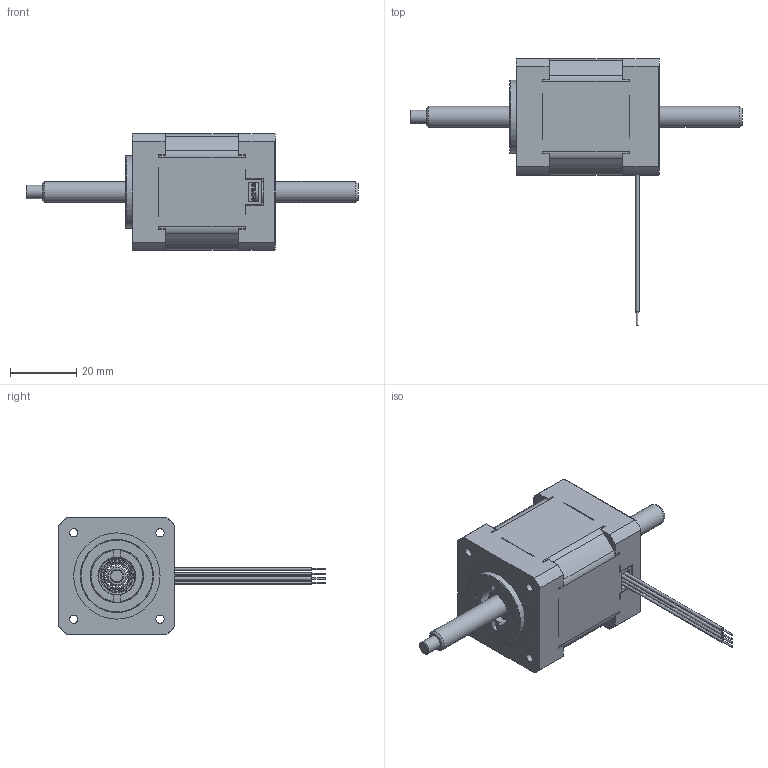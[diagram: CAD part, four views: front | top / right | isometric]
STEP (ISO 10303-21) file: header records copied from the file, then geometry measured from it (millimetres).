
FILE_DESCRIPTION( ('This file contains a STEP AP42 implementation' ,'as created by ZW3D STEP Interface translator.' ,'') ,'2;1' );
FILE_NAME( '35NC4X-XX-XXX.stp' ,'251231.161552', (''), ('ZWCAD Software Co.'), 'Version 1.0', 'ZW3D to STEP translator', '' );
FILE_SCHEMA(('AUTOMOTIVE_DESIGN { 1 0 10303 214 1 1 1 1 }'));
Length unit declared in the file: millimetre
Products named in the file (1): 0
Bounding box: 100 x 80.27 x 35 mm (x, y, z)
Volume: 26134.6 mm3; surface area: 24817.7 mm2
Topology: 3 solids, 3 shells, 794 faces, 2343 edges, 1457 vertices
Faces by surface type: plane 408, cylinder 210, bspline 85, torus 52, cone 39
Full cylindrical faces by diameter (mm): 0.5 x10, 1 x2, 1.2 x8, 2.5 x4, 3.2 x4, 3.4 x4, 4 x1, 5.8 x4, 6.35 x1, 9.2 x1, 11.4 x1, 11.5 x1, 16 x2, 22 x1, 26 x1
Entity records: 30308 total; most frequent: CARTESIAN_POINT 8356, ORIENTED_EDGE 4688, DIRECTION 4263, EDGE_CURVE 2344, AXIS2_PLACEMENT_3D 1548, VERTEX_POINT 1457, VECTOR 1167, LINE 1167
